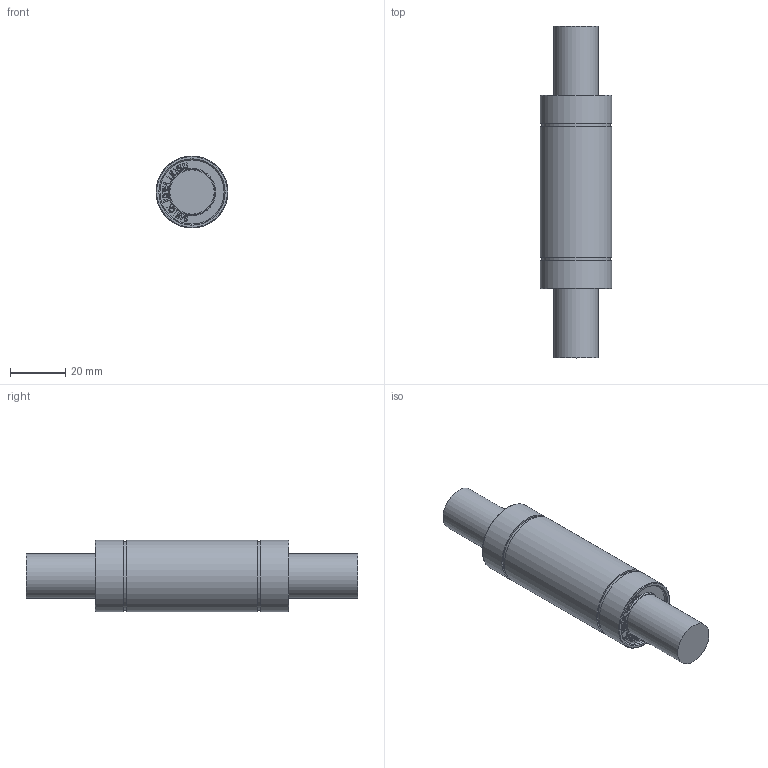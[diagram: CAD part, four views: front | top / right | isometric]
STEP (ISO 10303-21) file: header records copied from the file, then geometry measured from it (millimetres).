
FILE_DESCRIPTION((''),'2;1');
FILE_NAME('D:\STEP\EUROPE\UU\LME L UU\LME16LUU.stp','2013-02-05T19:12:36',('user2'),(''),'Autodesk Inventor 2012','Autodesk Inventor 2012','');
FILE_SCHEMA(('AUTOMOTIVE_DESIGN { 1 0 10303 214 1 1 1 1 }'));
Length unit declared in the file: millimetre
Products named in the file (1): LME16LUU
Bounding box: 26 x 120 x 26 mm (x, y, z)
Volume: 46540.2 mm3; surface area: 9748.3 mm2
Topology: 1 solids, 1 shells, 827 faces, 2311 edges, 1540 vertices
Faces by surface type: bspline 588, plane 224, cylinder 9, cone 4, torus 2
Full cylindrical faces by diameter (mm): 16 x2, 23.2 x2, 24.9 x2, 26 x3
Entity records: 27921 total; most frequent: CARTESIAN_POINT 9952, ORIENTED_EDGE 4588, EDGE_CURVE 2294, DIRECTION 1624, VERTEX_POINT 1538, QUASI_UNIFORM_CURVE 1176, VECTOR 1092, LINE 1092
